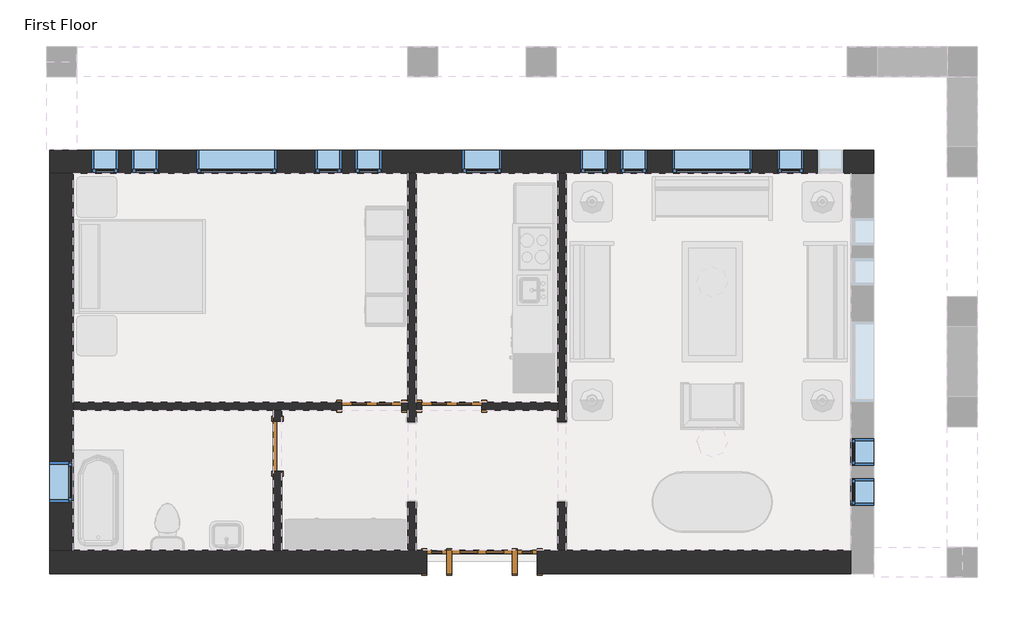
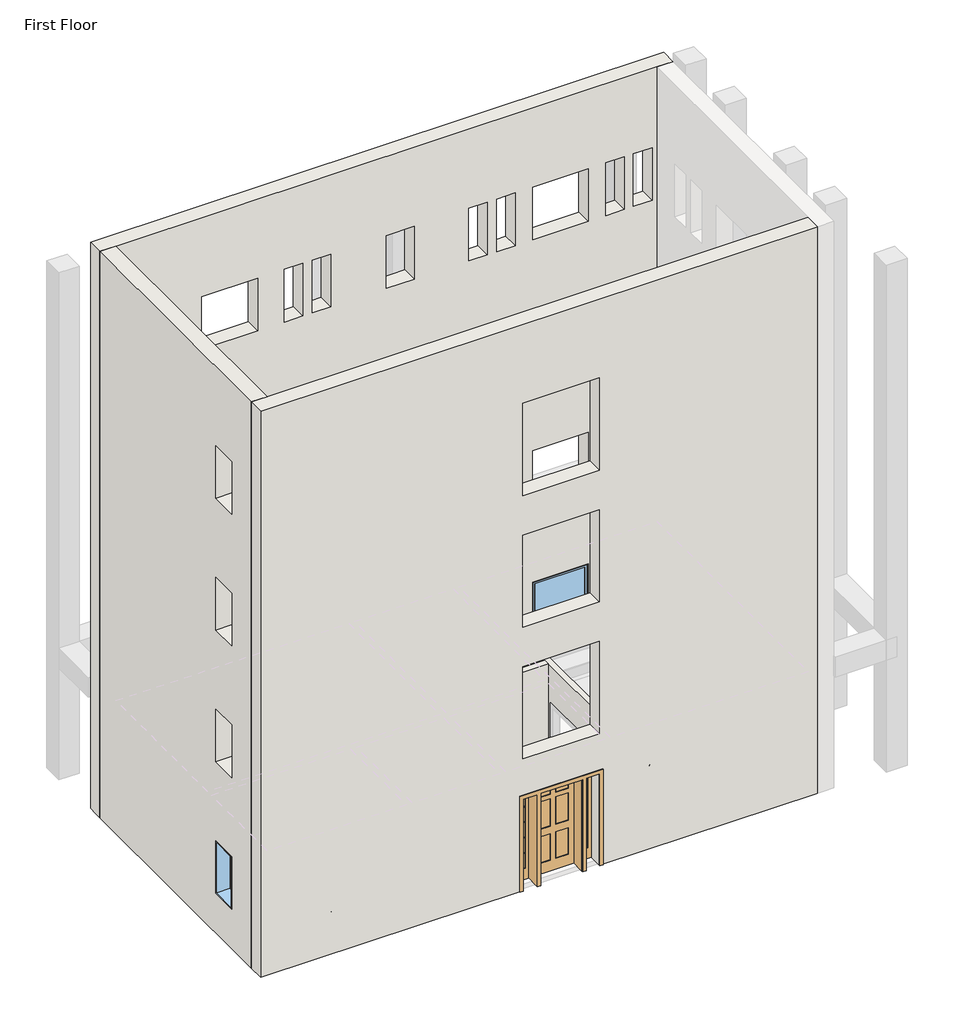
# One storey, part 1 of 2: 13 windows, 8 walls, 4 doors.
"""IFC4 building model written with IfcOpenShell, lengths in millimetres."""

from ifc_helpers import new_model, si_unit, frame, origin, place, context, project, spatial, polyline, outline, extrude, faceted_brep, transform, mapped, element, save
from components import door_829da954, door_2e3b4da2, door_4d6c7550, door_dba5aa2e, window_da97879f, window_d61ef850, window_60baf983, window_6eb97611

model = new_model("IFC4")

# Units and contexts
model_context = context("Model", 3, world=origin())
ifc_project = project(units=[si_unit("LENGTHUNIT", "METRE", prefix="MILLI")], contexts=[model_context])

# Site, building, storey
site = spatial("IfcSite", under=ifc_project)
building = spatial("IfcBuilding", under=site)
storey = spatial("IfcBuildingStorey", under=building, Name="First Floor", Elevation=0.0)

# Doors
placement = place(None, origin())
door_shape = door_829da954(model_context)
element("IfcDoor", 1, ObjectType="Single-Decorative 2 : 36\" x 84\"", at=placement, inside=storey, context=model_context, shape_type="MappedRepresentation", body=[
    mapped(door_shape, transform((-5449.8589563, 6723.5441867, 0.0), x_axis=(-1.0, 0.0, 0.0), y_axis=(0.0, -1.0, 0.0), z_axis=(0.0, 0.0, 1.0))),
])
door_2_shape = door_2e3b4da2(model_context)
element("IfcDoor", 2, ObjectType="Single-Decorative 2 : 36\" x 84\"", at=placement, inside=storey, context=model_context, shape_type="MappedRepresentation", body=[
    mapped(door_2_shape, transform((-6669.0589563, 6723.5441867, 0.0), x_axis=(1.0, 0.0, 0.0), y_axis=(0.0, 1.0, 0.0), z_axis=(0.0, 0.0, 1.0))),
])
door_3_shape = door_4d6c7550(model_context)
element("IfcDoor", 3, ObjectType="Single-Flush : 30\" x 84\"", at=placement, inside=storey, context=model_context, shape_type="MappedRepresentation", body=[
    mapped(door_3_shape, transform((-8105.7464563, 6113.9441867, 0.0), x_axis=(0.0, 1.0, 0.0), y_axis=(-1.0, 0.0, 0.0), z_axis=(0.0, 0.0, 1.0))),
])
door_4_shape = door_dba5aa2e(model_context)
element("IfcDoor", 4, ObjectType="Single-Raised Panel with Sidelights : 36\" x 84\"", at=placement, inside=storey, context=model_context, shape_type="MappedRepresentation", body=[
    mapped(door_4_shape, transform((-4992.6589563, 4350.2316867, 0.0), x_axis=(-1.0, 0.0, 0.0), y_axis=(0.0, -1.0, 0.0), z_axis=(0.0, 0.0, 1.0))),
])

# Walls
element("IfcWall", 5, ObjectType="Exterior - Brick on Mtl. Stud", at=placement, inside=storey, context=model_context, shape_type="Brep", body=[
    faceted_brep([(-11569.6714563, 10270.0191867, 13106.4), (-11217.2464563, 10270.0191867, 13106.4), (622.3285437, 10270.0191867, 13106.4), (974.7535437, 10270.0191867, 13106.4), (974.7535437, 10622.4441867, 13106.4), (-11569.6714563, 10622.4441867, 13106.4), (-11569.6714563, 10270.0191867, 0.0), (-11382.3464563, 10270.0191867, 0.0), (-11217.2464563, 10270.0191867, 0.0), (-6122.9589563, 10270.0191867, 0.0), (-5995.9589563, 10270.0191867, 0.0), (-3836.9589563, 10270.0191867, 0.0), (-3709.9589563, 10270.0191867, 0.0), (622.3285437, 10270.0191867, 0.0), (787.4285437, 10270.0191867, 0.0), (974.7535437, 10270.0191867, 0.0), (-90.4589563, 10270.0191867, 8229.6), (-90.4589563, 10270.0191867, 7010.4), (-496.8589563, 10270.0191867, 7010.4), (-496.8589563, 10270.0191867, 8229.6), (519.1410437, 10270.0191867, 8229.6), (519.1410437, 10270.0191867, 7010.4), (112.7410437, 10270.0191867, 7010.4), (112.7410437, 10270.0191867, 8229.6), (-2884.4589563, 10270.0191867, 8229.6), (-2478.0589563, 10270.0191867, 8229.6), (-2478.0589563, 10270.0191867, 7010.4), (-2884.4589563, 10270.0191867, 7010.4), (-3494.0589563, 10270.0191867, 8229.6), (-3087.6589563, 10270.0191867, 8229.6), (-3087.6589563, 10270.0191867, 7010.4), (-3494.0589563, 10270.0191867, 7010.4), (-7126.2589563, 10270.0191867, 8229.6), (-7126.2589563, 10270.0191867, 7010.4), (-7532.6589563, 10270.0191867, 7010.4), (-7532.6589563, 10270.0191867, 8229.6), (-6516.6589563, 10270.0191867, 8229.6), (-6516.6589563, 10270.0191867, 7010.4), (-6923.0589563, 10270.0191867, 7010.4), (-6923.0589563, 10270.0191867, 8229.6), (-10326.6589563, 10270.0191867, 8229.6), (-9920.2589563, 10270.0191867, 8229.6), (-9920.2589563, 10270.0191867, 7010.4), (-10326.6589563, 10270.0191867, 7010.4), (-10936.2589563, 10270.0191867, 8229.6), (-10529.8589563, 10270.0191867, 8229.6), (-10529.8589563, 10270.0191867, 7010.4), (-10936.2589563, 10270.0191867, 7010.4), (-2097.0589563, 10270.0191867, 8229.6), (-877.8589563, 10270.0191867, 8229.6), (-877.8589563, 10270.0191867, 7010.4), (-2097.0589563, 10270.0191867, 7010.4), (-9336.0589563, 10270.0191867, 8229.6), (-8116.8589563, 10270.0191867, 8229.6), (-8116.8589563, 10270.0191867, 7010.4), (-9336.0589563, 10270.0191867, 7010.4), (-5297.4589563, 10270.0191867, 8229.6), (-4687.8589563, 10270.0191867, 8229.6), (-4687.8589563, 10270.0191867, 7010.4), (-5297.4589563, 10270.0191867, 7010.4), (-90.4589563, 10270.0191867, 5181.6), (-90.4589563, 10270.0191867, 3962.4), (-496.8589563, 10270.0191867, 3962.4), (-496.8589563, 10270.0191867, 5181.6), (519.1410437, 10270.0191867, 5181.6), (519.1410437, 10270.0191867, 3962.4), (112.7410437, 10270.0191867, 3962.4), (112.7410437, 10270.0191867, 5181.6), (-2884.4589563, 10270.0191867, 5181.6), (-2478.0589563, 10270.0191867, 5181.6), (-2478.0589563, 10270.0191867, 3962.4), (-2884.4589563, 10270.0191867, 3962.4), (-3494.0589563, 10270.0191867, 5181.6), (-3087.6589563, 10270.0191867, 5181.6), (-3087.6589563, 10270.0191867, 3962.4), (-3494.0589563, 10270.0191867, 3962.4), (-7126.2589563, 10270.0191867, 5181.6), (-7126.2589563, 10270.0191867, 3962.4), (-7532.6589563, 10270.0191867, 3962.4), (-7532.6589563, 10270.0191867, 5181.6), (-6516.6589563, 10270.0191867, 5181.6), (-6516.6589563, 10270.0191867, 3962.4), (-6923.0589563, 10270.0191867, 3962.4), (-6923.0589563, 10270.0191867, 5181.6), (-10326.6589563, 10270.0191867, 5181.6), (-9920.2589563, 10270.0191867, 5181.6), (-9920.2589563, 10270.0191867, 3962.4), (-10326.6589563, 10270.0191867, 3962.4), (-10936.2589563, 10270.0191867, 5181.6), (-10529.8589563, 10270.0191867, 5181.6), (-10529.8589563, 10270.0191867, 3962.4), (-10936.2589563, 10270.0191867, 3962.4), (-2097.0589563, 10270.0191867, 5181.6), (-877.8589563, 10270.0191867, 5181.6), (-877.8589563, 10270.0191867, 3962.4), (-2097.0589563, 10270.0191867, 3962.4), (-9336.0589563, 10270.0191867, 5181.6), (-8116.8589563, 10270.0191867, 5181.6), (-8116.8589563, 10270.0191867, 3962.4), (-9336.0589563, 10270.0191867, 3962.4), (-5297.4589563, 10270.0191867, 5181.6), (-4687.8589563, 10270.0191867, 5181.6), (-4687.8589563, 10270.0191867, 3962.4), (-5297.4589563, 10270.0191867, 3962.4), (-90.4589563, 10270.0191867, 11277.6), (-90.4589563, 10270.0191867, 10058.4), (-496.8589563, 10270.0191867, 10058.4), (-496.8589563, 10270.0191867, 11277.6), (519.1410437, 10270.0191867, 11277.6), (519.1410437, 10270.0191867, 10058.4), (112.7410437, 10270.0191867, 10058.4), (112.7410437, 10270.0191867, 11277.6), (-2884.4589563, 10270.0191867, 11277.6), (-2478.0589563, 10270.0191867, 11277.6), (-2478.0589563, 10270.0191867, 10058.4), (-2884.4589563, 10270.0191867, 10058.4), (-3494.0589563, 10270.0191867, 11277.6), (-3087.6589563, 10270.0191867, 11277.6), (-3087.6589563, 10270.0191867, 10058.4), (-3494.0589563, 10270.0191867, 10058.4), (-7126.2589563, 10270.0191867, 11277.6), (-7126.2589563, 10270.0191867, 10058.4), (-7532.6589563, 10270.0191867, 10058.4), (-7532.6589563, 10270.0191867, 11277.6), (-6516.6589563, 10270.0191867, 11277.6), (-6516.6589563, 10270.0191867, 10058.4), (-6923.0589563, 10270.0191867, 10058.4), (-6923.0589563, 10270.0191867, 11277.6), (-10326.6589563, 10270.0191867, 11277.6), (-9920.2589563, 10270.0191867, 11277.6), (-9920.2589563, 10270.0191867, 10058.4), (-10326.6589563, 10270.0191867, 10058.4), (-10936.2589563, 10270.0191867, 11277.6), (-10529.8589563, 10270.0191867, 11277.6), (-10529.8589563, 10270.0191867, 10058.4), (-10936.2589563, 10270.0191867, 10058.4), (-2097.0589563, 10270.0191867, 11277.6), (-877.8589563, 10270.0191867, 11277.6), (-877.8589563, 10270.0191867, 10058.4), (-2097.0589563, 10270.0191867, 10058.4), (-9336.0589563, 10270.0191867, 11277.6), (-8116.8589563, 10270.0191867, 11277.6), (-8116.8589563, 10270.0191867, 10058.4), (-9336.0589563, 10270.0191867, 10058.4), (-5297.4589563, 10270.0191867, 11277.6), (-4687.8589563, 10270.0191867, 11277.6), (-4687.8589563, 10270.0191867, 10058.4), (-5297.4589563, 10270.0191867, 10058.4), (-90.4589563, 10270.0191867, 2133.6), (-90.4589563, 10270.0191867, 914.4), (-496.8589563, 10270.0191867, 914.4), (-496.8589563, 10270.0191867, 2133.6), (519.1410437, 10270.0191867, 2133.6), (519.1410437, 10270.0191867, 914.4), (112.7410437, 10270.0191867, 914.4), (112.7410437, 10270.0191867, 2133.6), (-2884.4589563, 10270.0191867, 2133.6), (-2478.0589563, 10270.0191867, 2133.6), (-2478.0589563, 10270.0191867, 914.4), (-2884.4589563, 10270.0191867, 914.4), (-3494.0589563, 10270.0191867, 2133.6), (-3087.6589563, 10270.0191867, 2133.6), (-3087.6589563, 10270.0191867, 914.4), (-3494.0589563, 10270.0191867, 914.4), (-7126.2589563, 10270.0191867, 2133.6), (-7126.2589563, 10270.0191867, 914.4), (-7532.6589563, 10270.0191867, 914.4), (-7532.6589563, 10270.0191867, 2133.6), (-6516.6589563, 10270.0191867, 2133.6), (-6516.6589563, 10270.0191867, 914.4), (-6923.0589563, 10270.0191867, 914.4), (-6923.0589563, 10270.0191867, 2133.6), (-10326.6589563, 10270.0191867, 2133.6), (-9920.2589563, 10270.0191867, 2133.6), (-9920.2589563, 10270.0191867, 914.4), (-10326.6589563, 10270.0191867, 914.4), (-10936.2589563, 10270.0191867, 2133.6), (-10529.8589563, 10270.0191867, 2133.6), (-10529.8589563, 10270.0191867, 914.4), (-10936.2589563, 10270.0191867, 914.4), (-2097.0589563, 10270.0191867, 2133.6), (-877.8589563, 10270.0191867, 2133.6), (-877.8589563, 10270.0191867, 914.4), (-2097.0589563, 10270.0191867, 914.4), (-9336.0589563, 10270.0191867, 2133.6), (-8116.8589563, 10270.0191867, 2133.6), (-8116.8589563, 10270.0191867, 914.4), (-9336.0589563, 10270.0191867, 914.4), (-5297.4589563, 10270.0191867, 2133.6), (-4687.8589563, 10270.0191867, 2133.6), (-4687.8589563, 10270.0191867, 914.4), (-5297.4589563, 10270.0191867, 914.4), (-11569.6714563, 10622.4441867, 0.0), (974.7535437, 10622.4441867, 0.0), (787.4285437, 10622.4441867, 0.0), (-11382.3464563, 10622.4441867, 0.0), (-90.4589563, 10622.4441867, 8229.6), (-496.8589563, 10622.4441867, 8229.6), (-496.8589563, 10622.4441867, 7010.4), (-90.4589563, 10622.4441867, 7010.4), (519.1410437, 10622.4441867, 8229.6), (112.7410437, 10622.4441867, 8229.6), (112.7410437, 10622.4441867, 7010.4), (519.1410437, 10622.4441867, 7010.4), (-2884.4589563, 10622.4441867, 8229.6), (-2884.4589563, 10622.4441867, 7010.4), (-2478.0589563, 10622.4441867, 7010.4), (-2478.0589563, 10622.4441867, 8229.6), (-3494.0589563, 10622.4441867, 8229.6), (-3494.0589563, 10622.4441867, 7010.4), (-3087.6589563, 10622.4441867, 7010.4), (-3087.6589563, 10622.4441867, 8229.6), (-7126.2589563, 10622.4441867, 8229.6), (-7532.6589563, 10622.4441867, 8229.6), (-7532.6589563, 10622.4441867, 7010.4), (-7126.2589563, 10622.4441867, 7010.4), (-6516.6589563, 10622.4441867, 8229.6), (-6923.0589563, 10622.4441867, 8229.6), (-6923.0589563, 10622.4441867, 7010.4), (-6516.6589563, 10622.4441867, 7010.4), (-10326.6589563, 10622.4441867, 8229.6), (-10326.6589563, 10622.4441867, 7010.4), (-9920.2589563, 10622.4441867, 7010.4), (-9920.2589563, 10622.4441867, 8229.6), (-10936.2589563, 10622.4441867, 8229.6), (-10936.2589563, 10622.4441867, 7010.4), (-10529.8589563, 10622.4441867, 7010.4), (-10529.8589563, 10622.4441867, 8229.6), (-2097.0589563, 10622.4441867, 8229.6), (-2097.0589563, 10622.4441867, 7010.4), (-877.8589563, 10622.4441867, 7010.4), (-877.8589563, 10622.4441867, 8229.6), (-9336.0589563, 10622.4441867, 8229.6), (-9336.0589563, 10622.4441867, 7010.4), (-8116.8589563, 10622.4441867, 7010.4), (-8116.8589563, 10622.4441867, 8229.6), (-5297.4589563, 10622.4441867, 8229.6), (-5297.4589563, 10622.4441867, 7010.4), (-4687.8589563, 10622.4441867, 7010.4), (-4687.8589563, 10622.4441867, 8229.6), (-90.4589563, 10622.4441867, 5181.6), (-496.8589563, 10622.4441867, 5181.6), (-496.8589563, 10622.4441867, 3962.4), (-90.4589563, 10622.4441867, 3962.4), (519.1410437, 10622.4441867, 5181.6), (112.7410437, 10622.4441867, 5181.6), (112.7410437, 10622.4441867, 3962.4), (519.1410437, 10622.4441867, 3962.4), (-2884.4589563, 10622.4441867, 5181.6), (-2884.4589563, 10622.4441867, 3962.4), (-2478.0589563, 10622.4441867, 3962.4), (-2478.0589563, 10622.4441867, 5181.6), (-3494.0589563, 10622.4441867, 5181.6), (-3494.0589563, 10622.4441867, 3962.4), (-3087.6589563, 10622.4441867, 3962.4), (-3087.6589563, 10622.4441867, 5181.6), (-7126.2589563, 10622.4441867, 5181.6), (-7532.6589563, 10622.4441867, 5181.6), (-7532.6589563, 10622.4441867, 3962.4), (-7126.2589563, 10622.4441867, 3962.4), (-6516.6589563, 10622.4441867, 5181.6), (-6923.0589563, 10622.4441867, 5181.6), (-6923.0589563, 10622.4441867, 3962.4), (-6516.6589563, 10622.4441867, 3962.4), (-10326.6589563, 10622.4441867, 5181.6), (-10326.6589563, 10622.4441867, 3962.4), (-9920.2589563, 10622.4441867, 3962.4), (-9920.2589563, 10622.4441867, 5181.6), (-10936.2589563, 10622.4441867, 5181.6), (-10936.2589563, 10622.4441867, 3962.4), (-10529.8589563, 10622.4441867, 3962.4), (-10529.8589563, 10622.4441867, 5181.6), (-2097.0589563, 10622.4441867, 5181.6), (-2097.0589563, 10622.4441867, 3962.4), (-877.8589563, 10622.4441867, 3962.4), (-877.8589563, 10622.4441867, 5181.6), (-9336.0589563, 10622.4441867, 5181.6), (-9336.0589563, 10622.4441867, 3962.4), (-8116.8589563, 10622.4441867, 3962.4), (-8116.8589563, 10622.4441867, 5181.6), (-5297.4589563, 10622.4441867, 5181.6), (-5297.4589563, 10622.4441867, 3962.4), (-4687.8589563, 10622.4441867, 3962.4), (-4687.8589563, 10622.4441867, 5181.6), (-90.4589563, 10622.4441867, 11277.6), (-496.8589563, 10622.4441867, 11277.6), (-496.8589563, 10622.4441867, 10058.4), (-90.4589563, 10622.4441867, 10058.4), (519.1410437, 10622.4441867, 11277.6), (112.7410437, 10622.4441867, 11277.6), (112.7410437, 10622.4441867, 10058.4), (519.1410437, 10622.4441867, 10058.4), (-2884.4589563, 10622.4441867, 11277.6), (-2884.4589563, 10622.4441867, 10058.4), (-2478.0589563, 10622.4441867, 10058.4), (-2478.0589563, 10622.4441867, 11277.6), (-3494.0589563, 10622.4441867, 11277.6), (-3494.0589563, 10622.4441867, 10058.4), (-3087.6589563, 10622.4441867, 10058.4), (-3087.6589563, 10622.4441867, 11277.6), (-7126.2589563, 10622.4441867, 11277.6), (-7532.6589563, 10622.4441867, 11277.6), (-7532.6589563, 10622.4441867, 10058.4), (-7126.2589563, 10622.4441867, 10058.4), (-6516.6589563, 10622.4441867, 11277.6), (-6923.0589563, 10622.4441867, 11277.6), (-6923.0589563, 10622.4441867, 10058.4), (-6516.6589563, 10622.4441867, 10058.4), (-10326.6589563, 10622.4441867, 11277.6), (-10326.6589563, 10622.4441867, 10058.4), (-9920.2589563, 10622.4441867, 10058.4), (-9920.2589563, 10622.4441867, 11277.6), (-10936.2589563, 10622.4441867, 11277.6), (-10936.2589563, 10622.4441867, 10058.4), (-10529.8589563, 10622.4441867, 10058.4), (-10529.8589563, 10622.4441867, 11277.6), (-2097.0589563, 10622.4441867, 11277.6), (-2097.0589563, 10622.4441867, 10058.4), (-877.8589563, 10622.4441867, 10058.4), (-877.8589563, 10622.4441867, 11277.6), (-9336.0589563, 10622.4441867, 11277.6), (-9336.0589563, 10622.4441867, 10058.4), (-8116.8589563, 10622.4441867, 10058.4), (-8116.8589563, 10622.4441867, 11277.6), (-5297.4589563, 10622.4441867, 11277.6), (-5297.4589563, 10622.4441867, 10058.4), (-4687.8589563, 10622.4441867, 10058.4), (-4687.8589563, 10622.4441867, 11277.6), (-90.4589563, 10622.4441867, 2133.6), (-496.8589563, 10622.4441867, 2133.6), (-496.8589563, 10622.4441867, 914.4), (-90.4589563, 10622.4441867, 914.4), (519.1410437, 10622.4441867, 2133.6), (112.7410437, 10622.4441867, 2133.6), (112.7410437, 10622.4441867, 914.4), (519.1410437, 10622.4441867, 914.4), (-2884.4589563, 10622.4441867, 2133.6), (-2884.4589563, 10622.4441867, 914.4), (-2478.0589563, 10622.4441867, 914.4), (-2478.0589563, 10622.4441867, 2133.6), (-3494.0589563, 10622.4441867, 2133.6), (-3494.0589563, 10622.4441867, 914.4), (-3087.6589563, 10622.4441867, 914.4), (-3087.6589563, 10622.4441867, 2133.6), (-7126.2589563, 10622.4441867, 2133.6), (-7532.6589563, 10622.4441867, 2133.6), (-7532.6589563, 10622.4441867, 914.4), (-7126.2589563, 10622.4441867, 914.4), (-6516.6589563, 10622.4441867, 2133.6), (-6923.0589563, 10622.4441867, 2133.6), (-6923.0589563, 10622.4441867, 914.4), (-6516.6589563, 10622.4441867, 914.4), (-10326.6589563, 10622.4441867, 2133.6), (-10326.6589563, 10622.4441867, 914.4), (-9920.2589563, 10622.4441867, 914.4), (-9920.2589563, 10622.4441867, 2133.6), (-10936.2589563, 10622.4441867, 2133.6), (-10936.2589563, 10622.4441867, 914.4), (-10529.8589563, 10622.4441867, 914.4), (-10529.8589563, 10622.4441867, 2133.6), (-2097.0589563, 10622.4441867, 2133.6), (-2097.0589563, 10622.4441867, 914.4), (-877.8589563, 10622.4441867, 914.4), (-877.8589563, 10622.4441867, 2133.6), (-9336.0589563, 10622.4441867, 2133.6), (-9336.0589563, 10622.4441867, 914.4), (-8116.8589563, 10622.4441867, 914.4), (-8116.8589563, 10622.4441867, 2133.6), (-5297.4589563, 10622.4441867, 2133.6), (-5297.4589563, 10622.4441867, 914.4), (-4687.8589563, 10622.4441867, 914.4), (-4687.8589563, 10622.4441867, 2133.6), (974.7535437, 10435.1191867, 0.0), (-11569.6714563, 10435.1191867, 0.0), (-11382.3464563, 10435.1191867, 0.0), (787.4285437, 10435.1191867, 0.0)], [[[0, 1, 2, 3, 4, 5]], [[6, 7, 8, 9, 10, 11, 12, 13, 14, 15, 3, 2, 1, 0], [16, 17, 18, 19], [20, 21, 22, 23], [24, 25, 26, 27], [28, 29, 30, 31], [32, 33, 34, 35], [36, 37, 38, 39], [40, 41, 42, 43], [44, 45, 46, 47], [48, 49, 50, 51], [52, 53, 54, 55], [56, 57, 58, 59], [60, 61, 62, 63], [64, 65, 66, 67], [68, 69, 70, 71], [72, 73, 74, 75], [76, 77, 78, 79], [80, 81, 82, 83], [84, 85, 86, 87], [88, 89, 90, 91], [92, 93, 94, 95], [96, 97, 98, 99], [100, 101, 102, 103], [104, 105, 106, 107], [108, 109, 110, 111], [112, 113, 114, 115], [116, 117, 118, 119], [120, 121, 122, 123], [124, 125, 126, 127], [128, 129, 130, 131], [132, 133, 134, 135], [136, 137, 138, 139], [140, 141, 142, 143], [144, 145, 146, 147], [148, 149, 150, 151], [152, 153, 154, 155], [156, 157, 158, 159], [160, 161, 162, 163], [164, 165, 166, 167], [168, 169, 170, 171], [172, 173, 174, 175], [176, 177, 178, 179], [180, 181, 182, 183], [184, 185, 186, 187], [188, 189, 190, 191]], [[192, 5, 4, 193, 194, 195], [196, 197, 198, 199], [200, 201, 202, 203], [204, 205, 206, 207], [208, 209, 210, 211], [212, 213, 214, 215], [216, 217, 218, 219], [220, 221, 222, 223], [224, 225, 226, 227], [228, 229, 230, 231], [232, 233, 234, 235], [236, 237, 238, 239], [240, 241, 242, 243], [244, 245, 246, 247], [248, 249, 250, 251], [252, 253, 254, 255], [256, 257, 258, 259], [260, 261, 262, 263], [264, 265, 266, 267], [268, 269, 270, 271], [272, 273, 274, 275], [276, 277, 278, 279], [280, 281, 282, 283], [284, 285, 286, 287], [288, 289, 290, 291], [292, 293, 294, 295], [296, 297, 298, 299], [300, 301, 302, 303], [304, 305, 306, 307], [308, 309, 310, 311], [312, 313, 314, 315], [316, 317, 318, 319], [320, 321, 322, 323], [324, 325, 326, 327], [328, 329, 330, 331], [332, 333, 334, 335], [336, 337, 338, 339], [340, 341, 342, 343], [344, 345, 346, 347], [348, 349, 350, 351], [352, 353, 354, 355], [356, 357, 358, 359], [360, 361, 362, 363], [364, 365, 366, 367], [368, 369, 370, 371]], [[3, 15, 372, 193, 4]], [[6, 0, 5, 192, 373]], [[7, 6, 373, 374]], [[373, 192, 195, 374]], [[15, 14, 375, 372]], [[195, 194, 375, 374]], [[194, 193, 372, 375]], [[14, 13, 12, 11, 10, 9, 8, 7, 374, 375]], [[17, 16, 196, 199]], [[18, 17, 199, 198]], [[19, 18, 198, 197]], [[16, 19, 197, 196]], [[21, 20, 200, 203]], [[22, 21, 203, 202]], [[23, 22, 202, 201]], [[20, 23, 201, 200]], [[205, 204, 24, 27]], [[206, 205, 27, 26]], [[207, 206, 26, 25]], [[204, 207, 25, 24]], [[209, 208, 28, 31]], [[210, 209, 31, 30]], [[211, 210, 30, 29]], [[208, 211, 29, 28]], [[33, 32, 212, 215]], [[34, 33, 215, 214]], [[35, 34, 214, 213]], [[32, 35, 213, 212]], [[37, 36, 216, 219]], [[38, 37, 219, 218]], [[39, 38, 218, 217]], [[36, 39, 217, 216]], [[221, 220, 40, 43]], [[222, 221, 43, 42]], [[223, 222, 42, 41]], [[220, 223, 41, 40]], [[225, 224, 44, 47]], [[226, 225, 47, 46]], [[227, 226, 46, 45]], [[224, 227, 45, 44]], [[229, 228, 48, 51]], [[230, 229, 51, 50]], [[231, 230, 50, 49]], [[228, 231, 49, 48]], [[233, 232, 52, 55]], [[234, 233, 55, 54]], [[235, 234, 54, 53]], [[232, 235, 53, 52]], [[237, 236, 56, 59]], [[238, 237, 59, 58]], [[239, 238, 58, 57]], [[236, 239, 57, 56]], [[61, 60, 240, 243]], [[62, 61, 243, 242]], [[63, 62, 242, 241]], [[60, 63, 241, 240]], [[65, 64, 244, 247]], [[66, 65, 247, 246]], [[67, 66, 246, 245]], [[64, 67, 245, 244]], [[249, 248, 68, 71]], [[250, 249, 71, 70]], [[251, 250, 70, 69]], [[248, 251, 69, 68]], [[253, 252, 72, 75]], [[254, 253, 75, 74]], [[255, 254, 74, 73]], [[252, 255, 73, 72]], [[77, 76, 256, 259]], [[78, 77, 259, 258]], [[79, 78, 258, 257]], [[76, 79, 257, 256]], [[81, 80, 260, 263]], [[82, 81, 263, 262]], [[83, 82, 262, 261]], [[80, 83, 261, 260]], [[265, 264, 84, 87]], [[266, 265, 87, 86]], [[267, 266, 86, 85]], [[264, 267, 85, 84]], [[269, 268, 88, 91]], [[270, 269, 91, 90]], [[271, 270, 90, 89]], [[268, 271, 89, 88]], [[273, 272, 92, 95]], [[274, 273, 95, 94]], [[275, 274, 94, 93]], [[272, 275, 93, 92]], [[277, 276, 96, 99]], [[278, 277, 99, 98]], [[279, 278, 98, 97]], [[276, 279, 97, 96]], [[281, 280, 100, 103]], [[282, 281, 103, 102]], [[283, 282, 102, 101]], [[280, 283, 101, 100]], [[105, 104, 284, 287]], [[106, 105, 287, 286]], [[107, 106, 286, 285]], [[104, 107, 285, 284]], [[109, 108, 288, 291]], [[110, 109, 291, 290]], [[111, 110, 290, 289]], [[108, 111, 289, 288]], [[293, 292, 112, 115]], [[294, 293, 115, 114]], [[295, 294, 114, 113]], [[292, 295, 113, 112]], [[297, 296, 116, 119]], [[298, 297, 119, 118]], [[299, 298, 118, 117]], [[296, 299, 117, 116]], [[121, 120, 300, 303]], [[122, 121, 303, 302]], [[123, 122, 302, 301]], [[120, 123, 301, 300]], [[125, 124, 304, 307]], [[126, 125, 307, 306]], [[127, 126, 306, 305]], [[124, 127, 305, 304]], [[309, 308, 128, 131]], [[310, 309, 131, 130]], [[311, 310, 130, 129]], [[308, 311, 129, 128]], [[313, 312, 132, 135]], [[314, 313, 135, 134]], [[315, 314, 134, 133]], [[312, 315, 133, 132]], [[317, 316, 136, 139]], [[318, 317, 139, 138]], [[319, 318, 138, 137]], [[316, 319, 137, 136]], [[321, 320, 140, 143]], [[322, 321, 143, 142]], [[323, 322, 142, 141]], [[320, 323, 141, 140]], [[325, 324, 144, 147]], [[326, 325, 147, 146]], [[327, 326, 146, 145]], [[324, 327, 145, 144]], [[149, 148, 328, 331]], [[150, 149, 331, 330]], [[151, 150, 330, 329]], [[148, 151, 329, 328]], [[153, 152, 332, 335]], [[154, 153, 335, 334]], [[155, 154, 334, 333]], [[152, 155, 333, 332]], [[337, 336, 156, 159]], [[338, 337, 159, 158]], [[339, 338, 158, 157]], [[336, 339, 157, 156]], [[341, 340, 160, 163]], [[342, 341, 163, 162]], [[343, 342, 162, 161]], [[340, 343, 161, 160]], [[165, 164, 344, 347]], [[166, 165, 347, 346]], [[167, 166, 346, 345]], [[164, 167, 345, 344]], [[169, 168, 348, 351]], [[170, 169, 351, 350]], [[171, 170, 350, 349]], [[168, 171, 349, 348]], [[353, 352, 172, 175]], [[354, 353, 175, 174]], [[355, 354, 174, 173]], [[352, 355, 173, 172]], [[357, 356, 176, 179]], [[358, 357, 179, 178]], [[359, 358, 178, 177]], [[356, 359, 177, 176]], [[361, 360, 180, 183]], [[362, 361, 183, 182]], [[363, 362, 182, 181]], [[360, 363, 181, 180]], [[365, 364, 184, 187]], [[366, 365, 187, 186]], [[367, 366, 186, 185]], [[364, 367, 185, 184]], [[369, 368, 188, 191]], [[370, 369, 191, 190]], [[371, 370, 190, 189]], [[368, 371, 189, 188]]]),
])
element("IfcWall", 6, ObjectType="Exterior - Brick on Mtl. Stud", at=placement, inside=storey, context=model_context, shape_type="Brep", body=[
    faceted_brep([(-11569.6714563, 4526.4441867, 0.0), (-11217.2464563, 4526.4441867, 0.0), (-8169.2464563, 4526.4441867, 0.0), (-8042.2464563, 4526.4441867, 0.0), (-6122.9589563, 4526.4441867, 0.0), (-5995.9589563, 4526.4441867, 0.0), (-5830.8589563, 4526.4441867, 0.0), (-5830.8589563, 4174.0191867, 0.0), (-11569.6714563, 4174.0191867, 0.0), (-4154.4589563, 4526.4441867, 0.0), (-3836.9589563, 4526.4441867, 0.0), (-3709.9589563, 4526.4441867, 0.0), (622.3285437, 4526.4441867, 0.0), (622.3285437, 4174.0191867, 0.0), (-4154.4589563, 4174.0191867, 0.0), (622.3285437, 4526.4441867, 13106.4), (-11217.2464563, 4526.4441867, 13106.4), (-11569.6714563, 4526.4441867, 13106.4), (-11569.6714563, 4174.0191867, 13106.4), (622.3285437, 4174.0191867, 13106.4), (-5830.8589563, 4526.4441867, 2133.6), (-4154.4589563, 4526.4441867, 2133.6), (-4154.4589563, 4526.4441867, 6096.0), (-4154.4589563, 4526.4441867, 8229.6), (-5830.8589563, 4526.4441867, 8229.6), (-5830.8589563, 4526.4441867, 6096.0), (-4154.4589563, 4526.4441867, 3048.0), (-4154.4589563, 4526.4441867, 5181.6), (-5830.8589563, 4526.4441867, 5181.6), (-5830.8589563, 4526.4441867, 3048.0), (-4154.4589563, 4526.4441867, 9144.0), (-4154.4589563, 4526.4441867, 11277.6), (-5830.8589563, 4526.4441867, 11277.6), (-5830.8589563, 4526.4441867, 9144.0), (-5830.8589563, 4174.0191867, 2133.6), (-4154.4589563, 4174.0191867, 2133.6), (-4154.4589563, 4174.0191867, 6096.0), (-5830.8589563, 4174.0191867, 6096.0), (-5830.8589563, 4174.0191867, 8229.6), (-4154.4589563, 4174.0191867, 8229.6), (-4154.4589563, 4174.0191867, 3048.0), (-5830.8589563, 4174.0191867, 3048.0), (-5830.8589563, 4174.0191867, 5181.6), (-4154.4589563, 4174.0191867, 5181.6), (-4154.4589563, 4174.0191867, 9144.0), (-5830.8589563, 4174.0191867, 9144.0), (-5830.8589563, 4174.0191867, 11277.6), (-4154.4589563, 4174.0191867, 11277.6)], [[[0, 1, 2, 3, 4, 5, 6, 7, 8]], [[9, 10, 11, 12, 13, 14]], [[15, 16, 17, 18, 19]], [[20, 6, 5, 4, 3, 2, 1, 0, 17, 16, 15, 12, 11, 10, 9, 21], [22, 23, 24, 25], [26, 27, 28, 29], [30, 31, 32, 33]], [[8, 7, 34, 35, 14, 13, 19, 18], [36, 37, 38, 39], [40, 41, 42, 43], [44, 45, 46, 47]], [[12, 15, 19, 13]], [[17, 0, 8, 18]], [[34, 7, 6, 20]], [[35, 34, 20, 21]], [[14, 35, 21, 9]], [[37, 36, 22, 25]], [[38, 37, 25, 24]], [[39, 38, 24, 23]], [[36, 39, 23, 22]], [[41, 40, 26, 29]], [[42, 41, 29, 28]], [[43, 42, 28, 27]], [[40, 43, 27, 26]], [[45, 44, 30, 33]], [[46, 45, 33, 32]], [[47, 46, 32, 31]], [[44, 47, 31, 30]]]),
])
element("IfcWall", 7, ObjectType="Exterior - Brick on Mtl. Stud", at=placement, inside=storey, context=model_context, shape_type="Brep", body=[
    faceted_brep([(-11217.2464563, 4526.4441867, 13106.4), (-11217.2464563, 10270.0191867, 13106.4), (-11569.6714563, 10270.0191867, 13106.4), (-11569.6714563, 4526.4441867, 13106.4), (-11217.2464563, 4526.4441867, 0.0), (-11217.2464563, 6660.0441867, 0.0), (-11217.2464563, 6787.0441867, 0.0), (-11217.2464563, 10270.0191867, 0.0), (-11217.2464563, 5264.6316867, 8229.6), (-11217.2464563, 5874.2316867, 8229.6), (-11217.2464563, 5874.2316867, 7010.4), (-11217.2464563, 5264.6316867, 7010.4), (-11217.2464563, 5264.6316867, 5181.6), (-11217.2464563, 5874.2316867, 5181.6), (-11217.2464563, 5874.2316867, 3962.4), (-11217.2464563, 5264.6316867, 3962.4), (-11217.2464563, 5264.6316867, 11277.6), (-11217.2464563, 5874.2316867, 11277.6), (-11217.2464563, 5874.2316867, 10058.4), (-11217.2464563, 5264.6316867, 10058.4), (-11217.2464563, 5264.6316867, 2133.6), (-11217.2464563, 5874.2316867, 2133.6), (-11217.2464563, 5874.2316867, 914.4), (-11217.2464563, 5264.6316867, 914.4), (-11569.6714563, 4526.4441867, 0.0), (-11569.6714563, 10270.0191867, 0.0), (-11569.6714563, 5264.6316867, 8229.6), (-11569.6714563, 5264.6316867, 7010.4), (-11569.6714563, 5874.2316867, 7010.4), (-11569.6714563, 5874.2316867, 8229.6), (-11569.6714563, 5264.6316867, 5181.6), (-11569.6714563, 5264.6316867, 3962.4), (-11569.6714563, 5874.2316867, 3962.4), (-11569.6714563, 5874.2316867, 5181.6), (-11569.6714563, 5264.6316867, 11277.6), (-11569.6714563, 5264.6316867, 10058.4), (-11569.6714563, 5874.2316867, 10058.4), (-11569.6714563, 5874.2316867, 11277.6), (-11569.6714563, 5264.6316867, 2133.6), (-11569.6714563, 5264.6316867, 914.4), (-11569.6714563, 5874.2316867, 914.4), (-11569.6714563, 5874.2316867, 2133.6), (-11382.3464563, 4526.4441867, 0.0), (-11382.3464563, 10270.0191867, 0.0)], [[[0, 1, 2, 3]], [[4, 5, 6, 7, 1, 0], [8, 9, 10, 11], [12, 13, 14, 15], [16, 17, 18, 19], [20, 21, 22, 23]], [[24, 3, 2, 25], [26, 27, 28, 29], [30, 31, 32, 33], [34, 35, 36, 37], [38, 39, 40, 41]], [[4, 0, 3, 24, 42]], [[1, 7, 43, 25, 2]], [[42, 24, 25, 43]], [[7, 6, 5, 4, 42, 43]], [[27, 26, 8, 11]], [[28, 27, 11, 10]], [[29, 28, 10, 9]], [[26, 29, 9, 8]], [[31, 30, 12, 15]], [[32, 31, 15, 14]], [[33, 32, 14, 13]], [[30, 33, 13, 12]], [[35, 34, 16, 19]], [[36, 35, 19, 18]], [[37, 36, 18, 17]], [[34, 37, 17, 16]], [[39, 38, 20, 23]], [[40, 39, 23, 22]], [[41, 40, 22, 21]], [[38, 41, 21, 20]]]),
])
element("IfcWall", 8, ObjectType="Interior - 5\" Partition (2-hr)", at=placement, inside=storey, context=model_context, shape_type="Brep", body=[
    faceted_brep([(-3709.9589563, 10270.0191867, 0.0), (-3709.9589563, 6483.8316867, 0.0), (-3836.9589563, 6483.8316867, 0.0), (-3836.9589563, 6660.0441867, 0.0), (-3836.9589563, 6787.0441867, 0.0), (-3836.9589563, 10270.0191867, 0.0), (-3709.9589563, 5264.6316867, 0.0), (-3709.9589563, 4526.4441867, 0.0), (-3836.9589563, 4526.4441867, 0.0), (-3836.9589563, 5264.6316867, 0.0), (-3836.9589563, 10270.0191867, 3048.0), (-3836.9589563, 6787.0441867, 3048.0), (-3836.9589563, 6660.0441867, 3048.0), (-3836.9589563, 4526.4441867, 3048.0), (-3709.9589563, 4526.4441867, 3048.0), (-3709.9589563, 10270.0191867, 3048.0), (-3836.9589563, 6483.8316867, 2133.6), (-3836.9589563, 5264.6316867, 2133.6), (-3709.9589563, 6483.8316867, 2133.6), (-3709.9589563, 5264.6316867, 2133.6)], [[[0, 1, 2, 3, 4, 5]], [[6, 7, 8, 9]], [[10, 11, 12, 13, 14, 15]], [[5, 4, 3, 2, 16, 17, 9, 8, 13, 12, 11, 10]], [[18, 1, 0, 15, 14, 7, 6, 19]], [[5, 10, 15, 0]], [[13, 8, 7, 14]], [[9, 17, 19, 6]], [[16, 2, 1, 18]], [[17, 16, 18, 19]]]),
])
element("IfcWall", 9, ObjectType="Interior - 5\" Partition (2-hr)", at=placement, inside=storey, context=model_context, shape_type="Brep", body=[
    faceted_brep([(-6122.9589563, 4526.4441867, 0.0), (-6122.9589563, 5264.6316867, 0.0), (-5995.9589563, 5264.6316867, 0.0), (-5995.9589563, 4526.4441867, 0.0), (-6122.9589563, 6483.8316867, 0.0), (-6122.9589563, 6660.0441867, 0.0), (-6122.9589563, 6787.0441867, 0.0), (-6122.9589563, 10270.0191867, 0.0), (-5995.9589563, 10270.0191867, 0.0), (-5995.9589563, 6787.0441867, 0.0), (-5995.9589563, 6660.0441867, 0.0), (-5995.9589563, 6483.8316867, 0.0), (-6122.9589563, 10270.0191867, 3048.0), (-6122.9589563, 6787.0441867, 3048.0), (-6122.9589563, 6660.0441867, 3048.0), (-6122.9589563, 4526.4441867, 3048.0), (-5995.9589563, 4526.4441867, 3048.0), (-5995.9589563, 6660.0441867, 3048.0), (-5995.9589563, 6787.0441867, 3048.0), (-5995.9589563, 10270.0191867, 3048.0), (-6122.9589563, 5264.6316867, 2133.6), (-6122.9589563, 6483.8316867, 2133.6), (-5995.9589563, 5264.6316867, 2133.6), (-5995.9589563, 6483.8316867, 2133.6)], [[[0, 1, 2, 3]], [[4, 5, 6, 7, 8, 9, 10, 11]], [[12, 13, 14, 15, 16, 17, 18, 19]], [[20, 1, 0, 15, 14, 13, 12, 7, 6, 5, 4, 21]], [[3, 2, 22, 23, 11, 10, 9, 8, 19, 18, 17, 16]], [[7, 12, 19, 8]], [[15, 0, 3, 16]], [[11, 23, 21, 4]], [[22, 2, 1, 20]], [[23, 22, 20, 21]]]),
])
element("IfcWall", 10, ObjectType="Interior - 5\" Partition (2-hr)", at=placement, inside=storey, context=model_context, shape_type="Brep", body=[
    faceted_brep([(-6122.9589563, 6660.0441867, 0.0), (-6211.8589563, 6660.0441867, 0.0), (-6211.8589563, 6787.0441867, 0.0), (-6122.9589563, 6787.0441867, 0.0), (-7126.2589563, 6660.0441867, 0.0), (-8042.2464563, 6660.0441867, 0.0), (-8169.2464563, 6660.0441867, 0.0), (-11217.2464563, 6660.0441867, 0.0), (-11217.2464563, 6787.0441867, 0.0), (-7126.2589563, 6787.0441867, 0.0), (-11217.2464563, 6660.0441867, 3048.0), (-8169.2464563, 6660.0441867, 3048.0), (-8042.2464563, 6660.0441867, 3048.0), (-6122.9589563, 6660.0441867, 3048.0), (-6122.9589563, 6787.0441867, 3048.0), (-11217.2464563, 6787.0441867, 3048.0), (-6211.8589563, 6660.0441867, 2133.6), (-7126.2589563, 6660.0441867, 2133.6), (-6211.8589563, 6787.0441867, 2133.6), (-7126.2589563, 6787.0441867, 2133.6)], [[[0, 1, 2, 3]], [[4, 5, 6, 7, 8, 9]], [[10, 11, 12, 13, 14, 15]], [[16, 1, 0, 13, 12, 11, 10, 7, 6, 5, 4, 17]], [[3, 2, 18, 19, 9, 8, 15, 14]], [[7, 10, 15, 8]], [[13, 0, 3, 14]], [[18, 2, 1, 16]], [[19, 18, 16, 17]], [[9, 19, 17, 4]]]),
])
element("IfcWall", 11, ObjectType="Interior - 5\" Partition (2-hr)", at=placement, inside=storey, context=model_context, shape_type="SweptSolid", body=[
    extrude(outline(polyline([(6660.0441867, 0.0), (6494.9441867, 0.0), (6494.9441867, 2133.6), (5732.9441867, 2133.6), (5732.9441867, 0.0), (4526.4441867, 0.0), (4526.4441867, 3048.0), (6660.0441867, 3048.0), (6660.0441867, 0.0)])), frame((-8169.2464563, 0.0, 0.0), z_axis=(1.0, 0.0, 0.0), x_axis=(0.0, 1.0, 0.0)), (0.0, 0.0, 1.0), 127.0),
])
element("IfcWall", 12, ObjectType="Interior - 5\" Partition (2-hr)", at=placement, inside=storey, context=model_context, shape_type="SweptSolid", body=[
    extrude(outline(polyline([(0.0, -5995.9589563), (0.0, -5907.0589563), (2133.6, -5907.0589563), (2133.6, -4992.6589563), (0.0, -4992.6589563), (0.0, -3836.9589563), (3048.0, -3836.9589563), (3048.0, -5995.9589563), (0.0, -5995.9589563)])), frame((0.0, 6660.0441867, 0.0), z_axis=(0.0, 1.0, 0.0), x_axis=(0.0, 0.0, 1.0)), (0.0, 0.0, 1.0), 127.0),
])

# Windows
window_shape = window_da97879f(model_context)
element("IfcWindow", 13, ObjectType="Fixed : 16\" x 48\"", at=placement, inside=storey, context=model_context, shape_type="MappedRepresentation", body=[
    mapped(window_shape, transform((-10771.1589563, 10446.2316867, 0.0), x_axis=(-1.0, 0.0, 0.0), y_axis=(0.0, -1.0, 0.0), z_axis=(0.0, 0.0, 1.0))),
])
element("IfcWindow", 14, ObjectType="Fixed : 16\" x 48\"", at=placement, inside=storey, context=model_context, shape_type="MappedRepresentation", body=[
    mapped(window_shape, transform((-10161.5589563, 10446.2316867, 0.0), x_axis=(-1.0, 0.0, 0.0), y_axis=(0.0, -1.0, 0.0), z_axis=(0.0, 0.0, 1.0))),
])
element("IfcWindow", 15, ObjectType="Fixed : 16\" x 48\"", at=placement, inside=storey, context=model_context, shape_type="MappedRepresentation", body=[
    mapped(window_shape, transform((-3328.9589563, 10446.2316867, 0.0), x_axis=(-1.0, 0.0, 0.0), y_axis=(0.0, -1.0, 0.0), z_axis=(0.0, 0.0, 1.0))),
])
element("IfcWindow", 16, ObjectType="Fixed : 16\" x 48\"", at=placement, inside=storey, context=model_context, shape_type="MappedRepresentation", body=[
    mapped(window_shape, transform((-2719.3589563, 10446.2316867, 0.0), x_axis=(-1.0, 0.0, 0.0), y_axis=(0.0, -1.0, 0.0), z_axis=(0.0, 0.0, 1.0))),
])
window_2_shape = window_d61ef850(model_context)
element("IfcWindow", 17, ObjectType="Fixed : 16\" x 48\"", at=placement, inside=storey, context=model_context, shape_type="MappedRepresentation", body=[
    mapped(window_2_shape, transform((-6681.7589563, 10446.2316867, 0.0), x_axis=(1.0, 0.0, 0.0), y_axis=(0.0, 1.0, 0.0), z_axis=(0.0, 0.0, 1.0))),
])
element("IfcWindow", 18, ObjectType="Fixed : 16\" x 48\"", at=placement, inside=storey, context=model_context, shape_type="MappedRepresentation", body=[
    mapped(window_2_shape, transform((-7291.3589563, 10446.2316867, 0.0), x_axis=(1.0, 0.0, 0.0), y_axis=(0.0, 1.0, 0.0), z_axis=(0.0, 0.0, 1.0))),
])
element("IfcWindow", 19, ObjectType="Fixed : 16\" x 48\"", at=placement, inside=storey, context=model_context, shape_type="MappedRepresentation", body=[
    mapped(window_2_shape, transform((-255.5589563, 10446.2316867, 0.0), x_axis=(1.0, 0.0, 0.0), y_axis=(0.0, 1.0, 0.0), z_axis=(0.0, 0.0, 1.0))),
])
element("IfcWindow", 20, ObjectType="Fixed : 16\" x 48\"", at=placement, inside=storey, context=model_context, shape_type="MappedRepresentation", body=[
    mapped(window_2_shape, transform((798.5410437, 5378.9316867, 0.0), x_axis=(0.0, -1.0, 0.0), y_axis=(1.0, 0.0, 0.0), z_axis=(0.0, 0.0, 1.0))),
])
element("IfcWindow", 21, ObjectType="Fixed : 16\" x 48\"", at=placement, inside=storey, context=model_context, shape_type="MappedRepresentation", body=[
    mapped(window_2_shape, transform((798.5410437, 5988.5316867, 0.0), x_axis=(0.0, -1.0, 0.0), y_axis=(1.0, 0.0, 0.0), z_axis=(0.0, 0.0, 1.0))),
])
window_3_shape = window_60baf983(model_context)
element("IfcWindow", 22, ObjectType="Fixed : 24\" x 48\"", at=placement, inside=storey, context=model_context, shape_type="MappedRepresentation", body=[
    mapped(window_3_shape, transform((-5030.7589563, 10446.2316867, 0.0), x_axis=(-1.0, 0.0, 0.0), y_axis=(0.0, -1.0, 0.0), z_axis=(0.0, 0.0, 1.0))),
])
element("IfcWindow", 23, ObjectType="Fixed : 24\" x 48\"", at=placement, inside=storey, context=model_context, shape_type="MappedRepresentation", body=[
    mapped(window_3_shape, transform((-11393.4589563, 5531.3316867, 0.0), x_axis=(0.0, -1.0, 0.0), y_axis=(1.0, 0.0, 0.0), z_axis=(0.0, 0.0, 1.0))),
])
window_4_shape = window_6eb97611(model_context)
element("IfcWindow", 24, ObjectType="Fixed : 48\" x 48\"", at=placement, inside=storey, context=model_context, shape_type="MappedRepresentation", body=[
    mapped(window_4_shape, transform((-8764.5589563, 10446.2316867, 0.0), x_axis=(-1.0, 0.0, 0.0), y_axis=(0.0, -1.0, 0.0), z_axis=(0.0, 0.0, 1.0))),
])
element("IfcWindow", 25, ObjectType="Fixed : 48\" x 48\"", at=placement, inside=storey, context=model_context, shape_type="MappedRepresentation", body=[
    mapped(window_4_shape, transform((-1525.5589563, 10446.2316867, 0.0), x_axis=(-1.0, 0.0, 0.0), y_axis=(0.0, -1.0, 0.0), z_axis=(0.0, 0.0, 1.0))),
])

save(model, "model.ifc")
